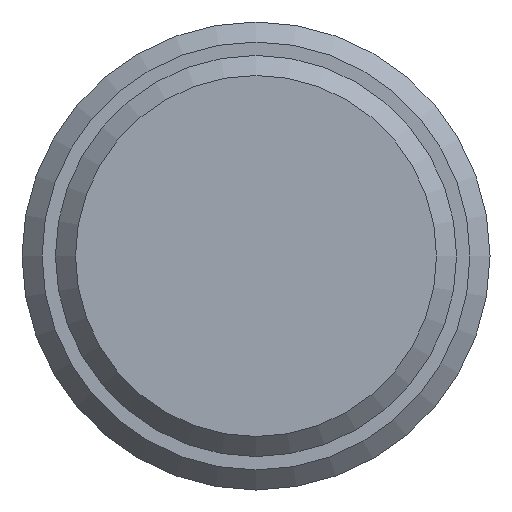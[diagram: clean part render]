
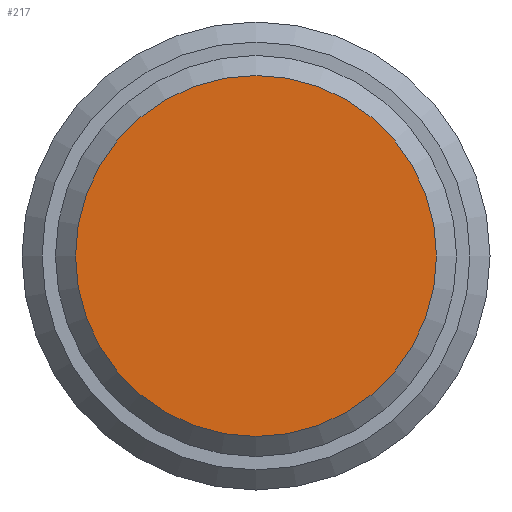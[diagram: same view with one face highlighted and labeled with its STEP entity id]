
A CAD part, front view. The second image highlights one B-rep face of the part: STEP entity #217.
In plain terms, the highlighted planar face has unit normal (0, -1, 0).
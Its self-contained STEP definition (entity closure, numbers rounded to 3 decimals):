
#16=PLANE('',#267);
#51=FACE_OUTER_BOUND('',#65,.T.);
#65=EDGE_LOOP('',(#177));
#87=CIRCLE('',#265,2.7);
#107=VERTEX_POINT('',#396);
#131=EDGE_CURVE('',#107,#107,#87,.T.);
#177=ORIENTED_EDGE('',*,*,#131,.F.);
#217=ADVANCED_FACE('',(#51),#16,.T.);
#265=AXIS2_PLACEMENT_3D('',#398,#321,#322);
#267=AXIS2_PLACEMENT_3D('',#401,#326,#327);
#321=DIRECTION('center_axis',(0.,1.,0.));
#322=DIRECTION('ref_axis',(-1.,0.,0.));
#326=DIRECTION('center_axis',(0.,-1.,0.));
#327=DIRECTION('ref_axis',(0.,0.,-1.));
#396=CARTESIAN_POINT('',(2.7,0.,0.));
#398=CARTESIAN_POINT('Origin',(0.,0.,0.));
#401=CARTESIAN_POINT('Origin',(3.,0.,0.));
